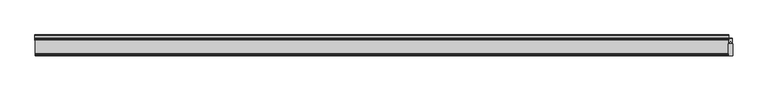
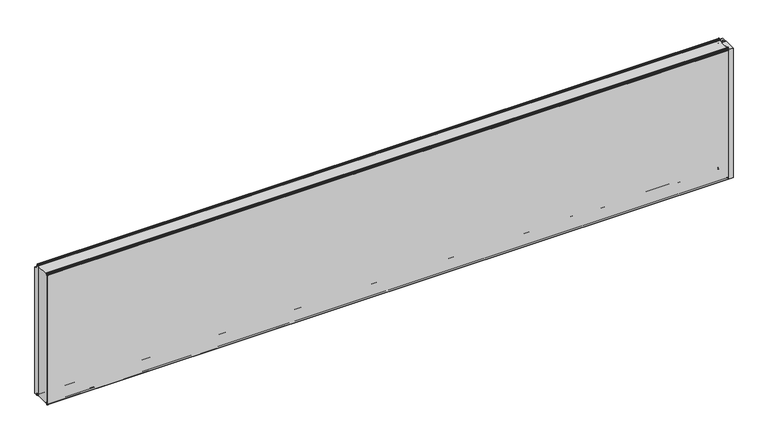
"""IFC4 building model written with IfcOpenShell, lengths in millimetres: plate geometry, Fronttop : Fronttop 150/1000."""

from ifc_helpers import new_model, si_unit, point, frame, frame_2d, origin, origin_with_axes, place, context, project, spatial, polyline, circle_curve, trimmed, segment, composite_curve, outline, extrude, source, transform, mapped, element, save
from ifc_brep_helpers import plane_surface, cylinder_surface, revolved_surface, advanced_brep


def plate_ea41461e(model_context):
    return source(origin(), model_context, "Body", "SolidModel", [
        advanced_brep(
        [(-2486.5, 124.0, 1008.0), (-2486.5, 121.0, 1008.0), (-2486.5, 121.0, 1004.0), (-2486.5, 117.0, 1000.0), (-2486.5, 115.0, 1000.0), (-2486.5, 115.0, 1001.0), (-2486.5, 117.0, 1001.0), (-2486.5, 120.0, 1004.0), (-2486.5, 120.0, 1008.0), (-2486.5, 125.0, 1008.0), (-2486.5, 125.0, 1000.0), (-2486.5, 124.0, 1000.0), (2486.5, 125.0, 1008.0), (2486.5, 120.0, 1008.0), (2486.5, 120.0, 1004.0), (2486.5, 117.0, 1001.0), (2486.5, 115.0, 1001.0), (2486.5, 115.0, 1000.0), (2486.5, 117.0, 1000.0), (2486.5, 121.0, 1004.0), (2486.5, 121.0, 1008.0), (2486.5, 124.0, 1008.0), (2486.5, 124.0, 1000.0), (2486.5, 125.0, 1000.0), (-2486.5, 117.0, 2.0), (2486.5, 117.0, 2.0), (2486.5, 115.0, 2.0), (-2486.5, 115.0, 2.0), (-2486.5, 119.0, 4.0), (2486.5, 119.0, 4.0), (-2486.5, 119.0, 8.0), (2486.5, 119.0, 8.0), (-2486.5, 126.0, 8.0), (2486.5, 126.0, 8.0), (-2486.5, 126.0, 0.0), (2486.5, 126.0, 0.0), (-2486.5, 129.0, -3.0), (2486.5, 129.0, -3.0), (-2486.5, 125.0, -3.0), (-2487.5, 125.0, -3.0), (-2487.5, 147.0, -3.0), (-2486.5, 147.0, -3.0), (2486.5, 147.0, -3.0), (2487.5, 147.0, -3.0), (2487.5, 125.0, -3.0), (2486.5, 125.0, -3.0), (-2486.5, 150.0, 0.0), (2486.5, 150.0, 0.0), (-2487.5, 150.0, 0.0), (-2487.5, 150.0, 969.0), (-2486.5, 150.0, 969.0), (2486.5, 150.0, 969.0), (2487.5, 150.0, 969.0), (2487.5, 150.0, 0.0), (-2486.5, 147.0, 972.0), (2486.5, 147.0, 972.0), (-2487.5, 147.0, 972.0), (-2487.5, 128.0, 972.0), (-2486.5, 128.0, 972.0), (2486.5, 128.0, 972.0), (2487.5, 128.0, 972.0), (2487.5, 147.0, 972.0), (-2486.5, 125.0, 975.0), (2486.5, 125.0, 975.0), (-2487.5, 125.0, 975.0), (-2487.5, 125.0, 1000.0), (2487.5, 125.0, 1000.0), (2487.5, 125.0, 975.0), (-2486.5, 124.0, 975.0), (2486.5, 124.0, 975.0), (-2486.5, 128.0, 971.0), (2486.5, 128.0, 971.0), (-2486.5, 147.0, 971.0), (2486.5, 147.0, 971.0), (-2486.5, 149.0, 969.0), (2486.5, 149.0, 969.0), (-2486.5, 149.0, 0.0), (2486.5, 149.0, 0.0), (-2486.5, 147.0, -2.0), (2486.5, 147.0, -2.0), (-2486.5, 129.0, -2.0), (2486.5, 129.0, -2.0), (-2486.5, 127.0, 0.0), (2486.5, 127.0, 0.0), (-2486.5, 127.0, 8.0), (2486.5, 127.0, 8.0), (-2486.5, 118.0, 8.0), (2486.5, 118.0, 8.0), (-2486.5, 118.0, 4.0), (2486.5, 118.0, 4.0), (-2486.5, 117.0, 3.0), (2486.5, 117.0, 3.0), (-2486.5, 115.0, 3.0), (2486.5, 115.0, 3.0), (2487.5, 110.0, 1000.0), (2487.5, 110.0, 0.0), (2487.5, 125.0, 0.0), (2486.5, 125.0, 0.0), (2486.5, 110.0, 0.0), (2486.5, 110.0, 1000.0), (-2487.5, 125.0, 0.0), (-2487.5, 110.0, 0.0), (-2487.5, 110.0, 1000.0), (-2486.5, 110.0, 1000.0), (-2486.5, 110.0, 0.0), (-2486.5, 125.0, 0.0)],
        [
            (0, 1, circle_curve(frame((-2486.5, 122.5, 1008.0), z_axis=(1.0, 0.0, 0.0), x_axis=(0.0, -1.0, 0.0)), 1.5)),
            (1, 2),
            (2, 3, circle_curve(frame((-2486.5, 117.0, 1004.0), z_axis=(-1.0, 0.0, 0.0), x_axis=(0.0, -1.0, 0.0)), 4.0)),
            (3, 4),
            (4, 5),
            (5, 6),
            (6, 7, circle_curve(frame((-2486.5, 117.0, 1004.0), z_axis=(1.0, 0.0, 0.0), x_axis=(0.0, -1.0, 0.0)), 3.0)),
            (7, 8),
            (8, 9, circle_curve(frame((-2486.5, 122.5, 1008.0), z_axis=(-1.0, 0.0, 0.0), x_axis=(0.0, -1.0, 0.0)), 2.5)),
            (9, 10),
            (10, 11),
            (11, 0),
            (12, 13, circle_curve(frame((2486.5, 122.5, 1008.0), z_axis=(1.0, 0.0, 0.0), x_axis=(0.0, -1.0, 0.0)), 2.5)),
            (13, 14),
            (14, 15, circle_curve(frame((2486.5, 117.0, 1004.0), z_axis=(-1.0, 0.0, 0.0), x_axis=(0.0, -1.0, 0.0)), 3.0)),
            (15, 16),
            (16, 17),
            (17, 18),
            (18, 19, circle_curve(frame((2486.5, 117.0, 1004.0), z_axis=(1.0, 0.0, 0.0), x_axis=(0.0, -1.0, 0.0)), 4.0)),
            (19, 20),
            (20, 21, circle_curve(frame((2486.5, 122.5, 1008.0), z_axis=(-1.0, 0.0, 0.0), x_axis=(0.0, -1.0, 0.0)), 1.5)),
            (21, 22),
            (22, 23),
            (23, 12),
            (24, 25),
            (25, 26),
            (26, 27),
            (27, 24),
            (24, 28, circle_curve(frame((-2486.5, 117.0, 4.0), z_axis=(1.0, 0.0, 0.0), x_axis=(0.0, -1.0, 0.0)), 2.0)),
            (28, 29),
            (29, 25, circle_curve(frame((2486.5, 117.0, 4.0), z_axis=(-1.0, 0.0, 0.0), x_axis=(0.0, -1.0, 0.0)), 2.0)),
            (28, 30),
            (30, 31),
            (31, 29),
            (30, 32, circle_curve(frame((-2486.5, 122.5, 8.0), z_axis=(-1.0, 0.0, 0.0), x_axis=(0.0, -1.0, 0.0)), 3.5)),
            (32, 33),
            (33, 31, circle_curve(frame((2486.5, 122.5, 8.0), z_axis=(1.0, 0.0, 0.0), x_axis=(0.0, -1.0, 0.0)), 3.5)),
            (32, 34),
            (34, 35),
            (35, 33),
            (34, 36, circle_curve(frame((-2486.5, 129.0, 0.0), z_axis=(1.0, 0.0, 0.0), x_axis=(0.0, -1.0, 0.0)), 3.0)),
            (36, 37),
            (37, 35, circle_curve(frame((2486.5, 129.0, 0.0), z_axis=(-1.0, 0.0, 0.0), x_axis=(0.0, -1.0, 0.0)), 3.0)),
            (36, 38),
            (38, 39),
            (39, 40),
            (40, 41),
            (41, 42),
            (42, 43),
            (43, 44),
            (44, 45),
            (45, 37),
            (41, 46, circle_curve(frame((-2486.5, 147.0, 0.0), z_axis=(1.0, 0.0, 0.0), x_axis=(0.0, -1.0, 0.0)), 3.0)),
            (46, 47),
            (47, 42, circle_curve(frame((2486.5, 147.0, 0.0), z_axis=(-1.0, 0.0, 0.0), x_axis=(0.0, -1.0, 0.0)), 3.0)),
            (46, 48),
            (48, 49),
            (49, 50),
            (50, 51),
            (51, 52),
            (52, 53),
            (53, 47),
            (50, 54, circle_curve(frame((-2486.5, 147.0, 969.0), z_axis=(1.0, 0.0, 0.0), x_axis=(0.0, -1.0, 0.0)), 3.0)),
            (54, 55),
            (55, 51, circle_curve(frame((2486.5, 147.0, 969.0), z_axis=(-1.0, 0.0, 0.0), x_axis=(0.0, -1.0, 0.0)), 3.0)),
            (54, 56),
            (56, 57),
            (57, 58),
            (58, 59),
            (59, 60),
            (60, 61),
            (61, 55),
            (58, 62, circle_curve(frame((-2486.5, 128.0, 975.0), z_axis=(-1.0, 0.0, 0.0), x_axis=(0.0, -1.0, 0.0)), 3.0)),
            (62, 63),
            (63, 59, circle_curve(frame((2486.5, 128.0, 975.0), z_axis=(1.0, 0.0, 0.0), x_axis=(0.0, -1.0, 0.0)), 3.0)),
            (62, 64),
            (64, 65),
            (65, 10),
            (9, 12),
            (23, 66),
            (66, 67),
            (67, 63),
            (8, 13),
            (7, 14),
            (6, 15),
            (5, 16),
            (4, 17),
            (4, 3),
            (3, 18),
            (18, 17),
            (2, 19),
            (1, 20),
            (0, 21),
            (11, 68),
            (68, 69),
            (69, 22),
            (68, 70, circle_curve(frame((-2486.5, 128.0, 975.0), z_axis=(1.0, 0.0, 0.0), x_axis=(0.0, -1.0, 0.0)), 4.0)),
            (70, 71),
            (71, 69, circle_curve(frame((2486.5, 128.0, 975.0), z_axis=(-1.0, 0.0, 0.0), x_axis=(0.0, -1.0, 0.0)), 4.0)),
            (70, 72),
            (72, 73),
            (73, 71),
            (72, 74, circle_curve(frame((-2486.5, 147.0, 969.0), z_axis=(-1.0, 0.0, 0.0), x_axis=(0.0, -1.0, 0.0)), 2.0)),
            (74, 75),
            (75, 73, circle_curve(frame((2486.5, 147.0, 969.0), z_axis=(1.0, 0.0, 0.0), x_axis=(0.0, -1.0, 0.0)), 2.0)),
            (74, 76),
            (76, 77),
            (77, 75),
            (76, 78, circle_curve(frame((-2486.5, 147.0, 0.0), z_axis=(-1.0, 0.0, 0.0), x_axis=(0.0, -1.0, 0.0)), 2.0)),
            (78, 79),
            (79, 77, circle_curve(frame((2486.5, 147.0, 0.0), z_axis=(1.0, 0.0, 0.0), x_axis=(0.0, -1.0, 0.0)), 2.0)),
            (78, 80),
            (80, 81),
            (81, 79),
            (80, 82, circle_curve(frame((-2486.5, 129.0, 0.0), z_axis=(-1.0, 0.0, 0.0), x_axis=(0.0, -1.0, 0.0)), 2.0)),
            (82, 83),
            (83, 81, circle_curve(frame((2486.5, 129.0, 0.0), z_axis=(1.0, 0.0, 0.0), x_axis=(0.0, -1.0, 0.0)), 2.0)),
            (82, 84),
            (84, 85),
            (85, 83),
            (84, 86, circle_curve(frame((-2486.5, 122.5, 8.0), z_axis=(1.0, 0.0, 0.0), x_axis=(0.0, -1.0, 0.0)), 4.5)),
            (86, 87),
            (87, 85, circle_curve(frame((2486.5, 122.5, 8.0), z_axis=(-1.0, 0.0, 0.0), x_axis=(0.0, -1.0, 0.0)), 4.5)),
            (86, 88),
            (88, 89),
            (89, 87),
            (88, 90, circle_curve(frame((-2486.5, 117.0, 4.0), z_axis=(-1.0, 0.0, 0.0), x_axis=(0.0, -1.0, 0.0)), 1.0)),
            (90, 91),
            (91, 89, circle_curve(frame((2486.5, 117.0, 4.0), z_axis=(1.0, 0.0, 0.0), x_axis=(0.0, -1.0, 0.0)), 1.0)),
            (90, 92),
            (92, 93),
            (93, 91),
            (26, 93),
            (92, 27),
            (66, 94),
            (94, 95),
            (95, 96),
            (96, 44),
            (43, 53, circle_curve(frame((2487.5, 147.0, 0.0), z_axis=(1.0, 0.0, 0.0), x_axis=(0.0, 1.0, 0.0)), 3.0)),
            (52, 61, circle_curve(frame((2487.5, 147.0, 969.0), z_axis=(1.0, 0.0, 0.0), x_axis=(0.0, 1.0, 0.0)), 3.0)),
            (60, 67, circle_curve(frame((2487.5, 128.0, 975.0), z_axis=(-1.0, 0.0, 0.0), x_axis=(0.0, 1.0, 0.0)), 3.0)),
            (45, 97),
            (97, 98),
            (98, 99),
            (99, 17),
            (18, 22),
            (99, 94),
            (98, 95),
            (97, 96),
            (64, 57, circle_curve(frame((-2487.5, 128.0, 975.0), z_axis=(1.0, 0.0, 0.0), x_axis=(0.0, 1.0, 0.0)), 3.0)),
            (56, 49, circle_curve(frame((-2487.5, 147.0, 969.0), z_axis=(-1.0, 0.0, 0.0), x_axis=(0.0, 1.0, 0.0)), 3.0)),
            (48, 40, circle_curve(frame((-2487.5, 147.0, 0.0), z_axis=(-1.0, 0.0, 0.0), x_axis=(0.0, 1.0, 0.0)), 3.0)),
            (39, 100),
            (100, 101),
            (101, 102),
            (102, 65),
            (103, 104),
            (104, 105),
            (105, 38),
            (11, 3),
            (4, 103),
            (102, 103),
            (101, 104),
            (100, 105),
        ],
        [
            plane_surface(frame((-2486.5, 0.0, 0.0), z_axis=(-1.0, 0.0, 0.0), x_axis=(0.0, 0.0, 1.0))),
            plane_surface(frame((2486.5, 0.0, 0.0), z_axis=(1.0, 0.0, 0.0), x_axis=(0.0, 0.0, 1.0))),
            plane_surface(frame((-2486.5, 117.0, 2.0), z_axis=(0.0, 0.0, -1.0), x_axis=(1.0, 0.0, 0.0))),
            cylinder_surface(frame((-2486.5, 117.0, 4.0), z_axis=(-1.0, 0.0, 0.0), x_axis=(0.0, -1.0, 0.0)), 2.0),
            plane_surface(frame((-2486.5, 119.0, 8.0), z_axis=(0.0, 1.0, 0.0), x_axis=(1.0, 0.0, 0.0))),
            revolved_surface(polyline([(2486.5, 119.0, 8.0), (-2486.5, 119.0, 8.0)]), (-2486.5, 122.5, 8.0), (1.0, 0.0, 0.0)),
            plane_surface(frame((-2486.5, 126.0, 0.0), z_axis=(0.0, -1.0, 0.0), x_axis=(1.0, 0.0, 0.0))),
            cylinder_surface(frame((-2486.5, 129.0, 0.0), z_axis=(-1.0, 0.0, 0.0), x_axis=(0.0, -1.0, 0.0)), 3.0),
            plane_surface(frame((-2486.5, 147.0, -3.0), z_axis=(0.0, 0.0, -1.0), x_axis=(1.0, 0.0, 0.0))),
            cylinder_surface(frame((-2486.5, 147.0, 0.0), z_axis=(-1.0, 0.0, 0.0), x_axis=(0.0, -1.0, 0.0)), 3.0),
            plane_surface(frame((-2486.5, 150.0, 969.0), z_axis=(0.0, 1.0, 0.0), x_axis=(1.0, 0.0, 0.0))),
            cylinder_surface(frame((-2486.5, 147.0, 969.0), z_axis=(-1.0, 0.0, 0.0), x_axis=(0.0, -1.0, 0.0)), 3.0),
            plane_surface(frame((-2486.5, 128.0, 972.0), z_axis=(0.0, 0.0, 1.0), x_axis=(1.0, 0.0, 0.0))),
            revolved_surface(polyline([(2486.5, 125.0, 975.0), (-2486.5, 125.0, 975.0)]), (-2486.5, 128.0, 975.0), (1.0, 0.0, 0.0)),
            plane_surface(frame((-2486.5, 125.0, 1008.0), z_axis=(0.0, 1.0, 0.0), x_axis=(1.0, 0.0, 0.0))),
            cylinder_surface(frame((-2486.5, 122.5, 1008.0), z_axis=(-1.0, 0.0, 0.0), x_axis=(0.0, -1.0, 0.0)), 2.5),
            plane_surface(frame((-2486.5, 120.0, 1004.0), z_axis=(0.0, -1.0, 0.0), x_axis=(1.0, 0.0, 0.0))),
            revolved_surface(polyline([(2486.5, 114.0, 1004.0), (-2486.5, 114.0, 1004.0)]), (-2486.5, 117.0, 1004.0), (1.0, 0.0, 0.0)),
            plane_surface(frame((-2486.5, 115.0, 1001.0), z_axis=(0.0, 0.0, 1.0), x_axis=(1.0, 0.0, 0.0))),
            plane_surface(frame((-2486.5, 115.0, 1000.0), z_axis=(0.0, -1.0, 0.0), x_axis=(1.0, 0.0, 0.0))),
            plane_surface(frame((-2486.5, 117.0, 1000.0), z_axis=(0.0, 0.0, -1.0), x_axis=(1.0, 0.0, 0.0))),
            cylinder_surface(frame((-2486.5, 117.0, 1004.0), z_axis=(-1.0, 0.0, 0.0), x_axis=(0.0, -1.0, 0.0)), 4.0),
            plane_surface(frame((-2486.5, 121.0, 1008.0), z_axis=(0.0, 1.0, 0.0), x_axis=(1.0, 0.0, 0.0))),
            revolved_surface(polyline([(2486.5, 121.0, 1008.0), (-2486.5, 121.0, 1008.0)]), (-2486.5, 122.5, 1008.0), (1.0, 0.0, 0.0)),
            plane_surface(frame((-2486.5, 124.0, 975.0), z_axis=(0.0, -1.0, 0.0), x_axis=(1.0, 0.0, 0.0))),
            cylinder_surface(frame((-2486.5, 128.0, 975.0), z_axis=(-1.0, 0.0, 0.0), x_axis=(0.0, -1.0, 0.0)), 4.0),
            plane_surface(frame((-2486.5, 147.0, 971.0), z_axis=(0.0, 0.0, -1.0), x_axis=(1.0, 0.0, 0.0))),
            revolved_surface(polyline([(2486.5, 145.0, 969.0), (-2486.5, 145.0, 969.0)]), (-2486.5, 147.0, 969.0), (1.0, 0.0, 0.0)),
            plane_surface(frame((-2486.5, 149.0, 0.0), z_axis=(0.0, -1.0, 0.0), x_axis=(1.0, 0.0, 0.0))),
            revolved_surface(polyline([(2486.5, 145.0, 0.0), (-2486.5, 145.0, 0.0)]), (-2486.5, 147.0, 0.0), (1.0, 0.0, 0.0)),
            plane_surface(frame((-2486.5, 129.0, -2.0), z_axis=(0.0, 0.0, 1.0), x_axis=(1.0, 0.0, 0.0))),
            revolved_surface(polyline([(2486.5, 127.0, 0.0), (-2486.5, 127.0, 0.0)]), (-2486.5, 129.0, 0.0), (1.0, 0.0, 0.0)),
            plane_surface(frame((-2486.5, 127.0, 8.0), z_axis=(0.0, 1.0, 0.0), x_axis=(1.0, 0.0, 0.0))),
            cylinder_surface(frame((-2486.5, 122.5, 8.0), z_axis=(-1.0, 0.0, 0.0), x_axis=(0.0, -1.0, 0.0)), 4.5),
            plane_surface(frame((-2486.5, 118.0, 4.0), z_axis=(0.0, -1.0, 0.0), x_axis=(1.0, 0.0, 0.0))),
            revolved_surface(polyline([(2486.5, 116.0, 4.0), (-2486.5, 116.0, 4.0)]), (-2486.5, 117.0, 4.0), (1.0, 0.0, 0.0)),
            plane_surface(frame((-2486.5, 115.0, 3.0), z_axis=(0.0, 0.0, 1.0), x_axis=(1.0, 0.0, 0.0))),
            plane_surface(frame((-2486.5, 115.0, 2.0), z_axis=(0.0, -1.0, 0.0), x_axis=(1.0, 0.0, 0.0))),
            plane_surface(frame((2487.5, 125.0, 1000.0), z_axis=(1.0, 0.0, 0.0), x_axis=(0.0, -1.0, 0.0))),
            plane_surface(frame((2486.5, 125.0, 1000.0), z_axis=(-1.0, 0.0, 0.0), x_axis=(0.0, 1.0, 0.0))),
            plane_surface(frame((2487.5, 125.0, 1000.0), z_axis=(0.0, 0.0, 1.0), x_axis=(-1.0, 0.0, 0.0))),
            plane_surface(frame((2487.5, 110.0, 1000.0), z_axis=(0.0, -1.0, 0.0), x_axis=(-1.0, 0.0, 0.0))),
            plane_surface(frame((2487.5, 110.0, 0.0), z_axis=(0.0, 0.0, -1.0), x_axis=(-1.0, 0.0, 0.0))),
            cylinder_surface(frame((2486.5, 147.0, 0.0), z_axis=(1.0, 0.0, 0.0), x_axis=(0.0, 1.0, 0.0)), 3.0),
            cylinder_surface(frame((2486.5, 147.0, 969.0), z_axis=(1.0, 0.0, 0.0), x_axis=(0.0, 1.0, 0.0)), 3.0),
            revolved_surface(polyline([(2486.5, 131.0, 975.0), (2487.5, 131.0, 975.0)]), (2486.5, 128.0, 975.0), (-1.0, 0.0, 0.0)),
            plane_surface(frame((-2487.5, 125.0, 1000.0), z_axis=(-1.0, 0.0, 0.0), x_axis=(0.0, 1.0, 0.0))),
            plane_surface(frame((-2486.5, 125.0, 1000.0), z_axis=(1.0, 0.0, 0.0), x_axis=(0.0, -1.0, 0.0))),
            plane_surface(frame((-2486.5, 125.0, 1000.0), z_axis=(0.0, 0.0, 1.0), x_axis=(-1.0, 0.0, 0.0))),
            plane_surface(frame((-2486.5, 110.0, 1000.0), z_axis=(0.0, -1.0, 0.0), x_axis=(-1.0, 0.0, 0.0))),
            plane_surface(frame((-2486.5, 110.0, 0.0), z_axis=(0.0, 0.0, -1.0), x_axis=(-1.0, 0.0, 0.0))),
            cylinder_surface(frame((-2487.5, 147.0, 0.0), z_axis=(1.0, 0.0, 0.0), x_axis=(0.0, 1.0, 0.0)), 3.0),
            cylinder_surface(frame((-2487.5, 147.0, 969.0), z_axis=(1.0, 0.0, 0.0), x_axis=(0.0, 1.0, 0.0)), 3.0),
            revolved_surface(polyline([(-2487.5, 131.0, 975.0), (-2486.5, 131.0, 975.0)]), (-2487.5, 128.0, 975.0), (-1.0, 0.0, 0.0)),
            plane_surface(frame((2487.5, 125.0, 0.0), z_axis=(0.0, -1.0, 0.0), x_axis=(-1.0, 0.0, 0.0))),
            plane_surface(frame((-2486.5, 125.0, 0.0), z_axis=(0.0, -1.0, 0.0), x_axis=(-1.0, 0.0, 0.0))),
        ],
        [
            (0, [[1, 2, 3, 4, 5, 6, 7, 8, 9, 10, 11, 12]]),
            (1, [[13, 14, 15, 16, 17, 18, 19, 20, 21, 22, 23, 24]]),
            (2, [[25, 26, 27, 28]]),
            (3, [[-25, 29, 30, 31]]),
            (4, [[-30, 32, 33, 34]]),
            (5, [[-33, 35, 36, 37]]),
            (6, [[-36, 38, 39, 40]]),
            (7, [[-39, 41, 42, 43]]),
            (8, [[-42, 44, 45, 46, 47, 48, 49, 50, 51, 52]]),
            (9, [[-48, 53, 54, 55]]),
            (10, [[-54, 56, 57, 58, 59, 60, 61, 62]]),
            (11, [[-59, 63, 64, 65]]),
            (12, [[-64, 66, 67, 68, 69, 70, 71, 72]]),
            (13, [[-69, 73, 74, 75]]),
            (14, [[-74, 76, 77, 78, -10, 79, -24, 80, 81, 82]]),
            (15, [[-9, 83, -13, -79]]),
            (16, [[-8, 84, -14, -83]]),
            (17, [[-7, 85, -15, -84]]),
            (18, [[-6, 86, -16, -85]]),
            (19, [[-5, 87, -17, -86]]),
            (20, [[-87, 88, 89, 90]]),
            (21, [[-3, 91, -19, -89]]),
            (22, [[-2, 92, -20, -91]]),
            (23, [[-1, 93, -21, -92]]),
            (24, [[-93, -12, 94, 95, 96, -22]]),
            (25, [[-95, 97, 98, 99]]),
            (26, [[-98, 100, 101, 102]]),
            (27, [[-101, 103, 104, 105]]),
            (28, [[-104, 106, 107, 108]]),
            (29, [[-107, 109, 110, 111]]),
            (30, [[-110, 112, 113, 114]]),
            (31, [[-113, 115, 116, 117]]),
            (32, [[-116, 118, 119, 120]]),
            (33, [[-119, 121, 122, 123]]),
            (34, [[-122, 124, 125, 126]]),
            (35, [[-125, 127, 128, 129]]),
            (36, [[-128, 130, 131, 132]]),
            (37, [[-27, 133, -131, 134]]),
            (38, [[135, 136, 137, 138, -50, 139, -61, 140, -71, 141, -81]]),
            (39, [[142, 143, 144, 145, -90, 146, -96, -99, -102, -105, -108, -111, -114, -117, -120, -123, -126, -129, -132, -133, -26, -31, -34, -37, -40, -43, -52]]),
            (40, [[-135, -80, -23, -146, -18, -145, 147]]),
            (41, [[-136, -147, -144, 148]]),
            (42, [[-137, -148, -143, 149]]),
            (43, [[-139, -49, -55, -62]]),
            (44, [[-140, -60, -65, -72]]),
            (45, [[-141, -70, -75, -82]]),
            (46, [[-77, 150, -67, 151, -57, 152, -46, 153, 154, 155, 156]]),
            (47, [[157, 158, 159, -44, -41, -38, -35, -32, -29, -28, -134, -130, -127, -124, -121, -118, -115, -112, -109, -106, -103, -100, -97, -94, 160, -88, 161]]),
            (48, [[-156, 162, -161, -4, -160, -11, -78]]),
            (49, [[-155, 163, -157, -162]]),
            (50, [[-154, 164, -158, -163]]),
            (51, [[-152, -56, -53, -47]]),
            (52, [[-151, -66, -63, -58]]),
            (53, [[-150, -76, -73, -68]]),
            (54, [[-138, -149, -142, -51]]),
            (55, [[-153, -45, -159, -164]]),
        ],
    ),
        extrude(outline(composite_curve([segment(polyline([(2487.4998455, 123.5), (2499.25, 123.5), (2499.25, 107.5), (2500.75, 107.5), (2500.75, 123.5), (2512.5001545, 123.5), (2512.5001545, 90.0), (2509.75, 90.0), (2509.75, 92.5)]), True, "CONTINUOUS"), segment(trimmed(circle_curve(frame_2d((2491.9661979, 89.3183984)), 18.0661619), [point((2509.75, 92.5))], [point((2500.0, 105.5))], True, "CARTESIAN"), True, "CONTINUOUS"), segment(trimmed(circle_curve(frame_2d((2508.0338021, 89.3183984)), 18.0661619), [point((2500.0, 105.5))], [point((2490.25, 92.5))], True, "CARTESIAN"), True, "CONTINUOUS"), segment(polyline([(2490.25, 92.5), (2490.25, 90.0), (2487.4998455, 90.0), (2487.4998455, 123.5)]), True, "CONTINUOUS")], self_intersect=False)), origin_with_axes(), (0.0, 0.0, 1.0), 1000.0),
        extrude(outline(polyline([(2515.5, 0.0), (2484.5, 0.0), (2484.5, 88.0), (2515.5, 88.0), (2515.5, 0.0)])), origin_with_axes(), (0.0, 0.0, 1.0), 1000.0),
        extrude(outline(polyline([(2488.4948846, 125.0), (2511.5051154, 125.0), (2511.5051154, 123.5), (2500.6502496, 123.5), (2500.6502496, 109.0759655), (2499.35, 109.0759655), (2499.35, 123.5), (2488.4948846, 123.5), (2488.4948846, 125.0)])), origin_with_axes(), (0.0, 0.0, 1.0), 1000.0),
        advanced_brep(
        [(-2484.5, 13.0, 1001.0), (-2484.5, 15.0, 1001.0), (-2484.5, 15.0, 1000.0), (-2484.5, 13.0, 1000.0), (-2484.5, 9.0, 1004.0), (-2484.5, 9.0, 1008.0), (-2484.5, 6.0, 1008.0), (-2484.5, 6.0, 999.5), (-2484.5, 2.1134897, 996.0214069), (-2484.5, 1.0, 995.0), (-2484.5, 1.0, -0.5), (-2484.5, 3.0, -0.5), (-2484.5, 3.0, 8.0), (-2484.5, 12.0, 8.0), (-2484.5, 12.0, 4.0), (-2484.5, 13.0, 3.0), (-2484.5, 15.0, 3.0), (-2484.5, 15.0, 2.0), (-2484.5, 13.0, 2.0), (-2484.5, 11.0, 4.0), (-2484.5, 11.0, 8.0), (-2484.5, 4.0, 8.0), (-2484.5, 4.0, -0.5), (-2484.5, 0.0, -0.5), (-2484.5, 0.0, 995.0), (-2484.5, 2.220863, 996.9877675), (-2484.5, 5.0, 999.5), (-2484.5, 5.0, 1008.0), (-2484.5, 10.0, 1008.0), (-2484.5, 10.0, 1004.0), (2484.5, 13.0, 1001.0), (2484.5, 10.0, 1004.0), (2484.5, 10.0, 1008.0), (2484.5, 5.0, 1008.0), (2484.5, 5.0, 999.5), (2484.5, 2.2239212, 997.0152907), (2484.5, 0.0, 995.0), (2484.5, 0.0, -0.5), (2484.5, 4.0, -0.5), (2484.5, 4.0, 8.0), (2484.5, 11.0, 8.0), (2484.5, 11.0, 4.0), (2484.5, 13.0, 2.0), (2484.5, 15.0, 2.0), (2484.5, 15.0, 3.0), (2484.5, 13.0, 3.0), (2484.5, 12.0, 4.0), (2484.5, 12.0, 8.0), (2484.5, 3.0, 8.0), (2484.5, 3.0, -0.5), (2484.5, 1.0, -0.5), (2484.5, 1.0, 995.0), (2484.5, 2.1104315, 995.9938837), (2484.5, 6.0, 999.5), (2484.5, 6.0, 1008.0), (2484.5, 9.0, 1008.0), (2484.5, 9.0, 1004.0), (2484.5, 13.0, 1000.0), (2484.5, 15.0, 1000.0), (2484.5, 15.0, 1001.0)],
        [
            (0, 1),
            (1, 2),
            (2, 3),
            (3, 4, circle_curve(frame((-2484.5, 13.0, 1004.0), z_axis=(-1.0, 0.0, 0.0), x_axis=(0.0, -1.0, 0.0)), 4.0)),
            (4, 5),
            (5, 6, circle_curve(frame((-2484.5, 7.5, 1008.0), z_axis=(1.0, 0.0, 0.0), x_axis=(0.0, -1.0, 0.0)), 1.5)),
            (6, 7),
            (7, 8, circle_curve(frame((-2484.5, 2.5, 999.5), z_axis=(-1.0, 0.0, 0.0), x_axis=(0.0, -1.0, 0.0)), 3.5)),
            (8, 9, circle_curve(frame((-2484.5, 2.0, 995.0), z_axis=(1.0, 0.0, 0.0), x_axis=(0.0, -1.0, 0.0)), 1.0)),
            (9, 10),
            (10, 11, circle_curve(frame((-2484.5, 2.0, -0.5), z_axis=(1.0, 0.0, 0.0), x_axis=(0.0, -1.0, 0.0)), 1.0)),
            (11, 12),
            (12, 13, circle_curve(frame((-2484.5, 7.5, 8.0), z_axis=(-1.0, 0.0, 0.0), x_axis=(0.0, -1.0, 0.0)), 4.5)),
            (13, 14),
            (14, 15, circle_curve(frame((-2484.5, 13.0, 4.0), z_axis=(1.0, 0.0, 0.0), x_axis=(0.0, -1.0, 0.0)), 1.0)),
            (15, 16),
            (16, 17),
            (17, 18),
            (18, 19, circle_curve(frame((-2484.5, 13.0, 4.0), z_axis=(-1.0, 0.0, 0.0), x_axis=(0.0, -1.0, 0.0)), 2.0)),
            (19, 20),
            (20, 21, circle_curve(frame((-2484.5, 7.5, 8.0), z_axis=(1.0, 0.0, 0.0), x_axis=(0.0, -1.0, 0.0)), 3.5)),
            (21, 22),
            (22, 23, circle_curve(frame((-2484.5, 2.0, -0.5), z_axis=(-1.0, 0.0, 0.0), x_axis=(0.0, -1.0, 0.0)), 2.0)),
            (23, 24),
            (24, 25, circle_curve(frame((-2484.5, 2.0, 995.0), z_axis=(-1.0, 0.0, 0.0), x_axis=(0.0, -1.0, 0.0)), 2.0)),
            (25, 26, circle_curve(frame((-2484.5, 2.5, 999.5), z_axis=(1.0, 0.0, 0.0), x_axis=(0.0, -1.0, 0.0)), 2.5)),
            (26, 27),
            (27, 28, circle_curve(frame((-2484.5, 7.5, 1008.0), z_axis=(-1.0, 0.0, 0.0), x_axis=(0.0, -1.0, 0.0)), 2.5)),
            (28, 29),
            (29, 0, circle_curve(frame((-2484.5, 13.0, 1004.0), z_axis=(1.0, 0.0, 0.0), x_axis=(0.0, -1.0, 0.0)), 3.0)),
            (30, 31, circle_curve(frame((2484.5, 13.0, 1004.0), z_axis=(-1.0, 0.0, 0.0), x_axis=(0.0, -1.0, 0.0)), 3.0)),
            (31, 32),
            (32, 33, circle_curve(frame((2484.5, 7.5, 1008.0), z_axis=(1.0, 0.0, 0.0), x_axis=(0.0, -1.0, 0.0)), 2.5)),
            (33, 34),
            (34, 35, circle_curve(frame((2484.5, 2.5, 999.5), z_axis=(-1.0, 0.0, 0.0), x_axis=(0.0, -1.0, 0.0)), 2.5)),
            (35, 36, circle_curve(frame((2484.5, 2.0, 995.0), z_axis=(1.0, 0.0, 0.0), x_axis=(0.0, -1.0, 0.0)), 2.0)),
            (36, 37),
            (37, 38, circle_curve(frame((2484.5, 2.0, -0.5), z_axis=(1.0, 0.0, 0.0), x_axis=(0.0, -1.0, 0.0)), 2.0)),
            (38, 39),
            (39, 40, circle_curve(frame((2484.5, 7.5, 8.0), z_axis=(-1.0, 0.0, 0.0), x_axis=(0.0, -1.0, 0.0)), 3.5)),
            (40, 41),
            (41, 42, circle_curve(frame((2484.5, 13.0, 4.0), z_axis=(1.0, 0.0, 0.0), x_axis=(0.0, -1.0, 0.0)), 2.0)),
            (42, 43),
            (43, 44),
            (44, 45),
            (45, 46, circle_curve(frame((2484.5, 13.0, 4.0), z_axis=(-1.0, 0.0, 0.0), x_axis=(0.0, -1.0, 0.0)), 1.0)),
            (46, 47),
            (47, 48, circle_curve(frame((2484.5, 7.5, 8.0), z_axis=(1.0, 0.0, 0.0), x_axis=(0.0, -1.0, 0.0)), 4.5)),
            (48, 49),
            (49, 50, circle_curve(frame((2484.5, 2.0, -0.5), z_axis=(-1.0, 0.0, 0.0), x_axis=(0.0, -1.0, 0.0)), 1.0)),
            (50, 51),
            (51, 52, circle_curve(frame((2484.5, 2.0, 995.0), z_axis=(-1.0, 0.0, 0.0), x_axis=(0.0, -1.0, 0.0)), 1.0)),
            (52, 53, circle_curve(frame((2484.5, 2.5, 999.5), z_axis=(1.0, 0.0, 0.0), x_axis=(0.0, -1.0, 0.0)), 3.5)),
            (53, 54),
            (54, 55, circle_curve(frame((2484.5, 7.5, 1008.0), z_axis=(-1.0, 0.0, 0.0), x_axis=(0.0, -1.0, 0.0)), 1.5)),
            (55, 56),
            (56, 57, circle_curve(frame((2484.5, 13.0, 1004.0), z_axis=(1.0, 0.0, 0.0), x_axis=(0.0, -1.0, 0.0)), 4.0)),
            (57, 58),
            (58, 59),
            (59, 30),
            (0, 30),
            (59, 1),
            (58, 2),
            (57, 3),
            (56, 4),
            (55, 5),
            (54, 6),
            (53, 7),
            (52, 8),
            (51, 9),
            (50, 10),
            (49, 11),
            (48, 12),
            (47, 13),
            (46, 14),
            (45, 15),
            (44, 16),
            (43, 17),
            (42, 18),
            (41, 19),
            (40, 20),
            (39, 21),
            (38, 22),
            (37, 23),
            (36, 24),
            (35, 25),
            (34, 26),
            (33, 27),
            (32, 28),
            (31, 29),
        ],
        [
            plane_surface(frame((-2484.5, 0.0, 0.0), z_axis=(-1.0, 0.0, 0.0), x_axis=(0.0, 0.0, 1.0))),
            plane_surface(frame((2484.5, 0.0, 0.0), z_axis=(1.0, 0.0, 0.0), x_axis=(0.0, 0.0, 1.0))),
            plane_surface(frame((-2484.5, 13.0, 1001.0), z_axis=(0.0, 0.0, 1.0), x_axis=(1.0, 0.0, 0.0))),
            plane_surface(frame((-2484.5, 15.0, 1001.0), z_axis=(0.0, 1.0, 0.0), x_axis=(1.0, 0.0, 0.0))),
            plane_surface(frame((-2484.5, 15.0, 1000.0), z_axis=(0.0, 0.0, -1.0), x_axis=(1.0, 0.0, 0.0))),
            cylinder_surface(frame((-2484.5, 13.0, 1004.0), z_axis=(-1.0, 0.0, 0.0), x_axis=(0.0, -1.0, 0.0)), 4.0),
            plane_surface(frame((-2484.5, 9.0, 1004.0), z_axis=(0.0, -1.0, 0.0), x_axis=(1.0, 0.0, 0.0))),
            revolved_surface(polyline([(2484.5, 6.0, 1008.0), (-2484.5, 6.0, 1008.0)]), (-2484.5, 7.5, 1008.0), (1.0, 0.0, 0.0)),
            plane_surface(frame((-2484.5, 6.0, 1008.0), z_axis=(0.0, 1.0, 0.0), x_axis=(1.0, 0.0, 0.0))),
            cylinder_surface(frame((-2484.5, 2.5, 999.5), z_axis=(-1.0, 0.0, 0.0), x_axis=(0.0, -1.0, 0.0)), 3.5),
            revolved_surface(polyline([(2484.5, 1.0, 995.0), (-2484.5, 1.0, 995.0)]), (-2484.5, 2.0, 995.0), (1.0, 0.0, 0.0)),
            plane_surface(frame((-2484.5, 1.0, 995.0), z_axis=(0.0, 1.0, 0.0), x_axis=(1.0, 0.0, 0.0))),
            revolved_surface(polyline([(2484.5, 1.0, -0.5), (-2484.5, 1.0, -0.5)]), (-2484.5, 2.0, -0.5), (1.0, 0.0, 0.0)),
            plane_surface(frame((-2484.5, 3.0, -0.5), z_axis=(0.0, -1.0, 0.0), x_axis=(1.0, 0.0, 0.0))),
            cylinder_surface(frame((-2484.5, 7.5, 8.0), z_axis=(-1.0, 0.0, 0.0), x_axis=(0.0, -1.0, 0.0)), 4.5),
            plane_surface(frame((-2484.5, 12.0, 8.0), z_axis=(0.0, 1.0, 0.0), x_axis=(1.0, 0.0, 0.0))),
            revolved_surface(polyline([(2484.5, 12.0, 4.0), (-2484.5, 12.0, 4.0)]), (-2484.5, 13.0, 4.0), (1.0, 0.0, 0.0)),
            plane_surface(frame((-2484.5, 13.0, 3.0), z_axis=(0.0, 0.0, 1.0), x_axis=(1.0, 0.0, 0.0))),
            plane_surface(frame((-2484.5, 15.0, 3.0), z_axis=(0.0, 1.0, 0.0), x_axis=(1.0, 0.0, 0.0))),
            plane_surface(frame((-2484.5, 15.0, 2.0), z_axis=(0.0, 0.0, -1.0), x_axis=(1.0, 0.0, 0.0))),
            cylinder_surface(frame((-2484.5, 13.0, 4.0), z_axis=(-1.0, 0.0, 0.0), x_axis=(0.0, -1.0, 0.0)), 2.0),
            plane_surface(frame((-2484.5, 11.0, 4.0), z_axis=(0.0, -1.0, 0.0), x_axis=(1.0, 0.0, 0.0))),
            revolved_surface(polyline([(2484.5, 4.0, 8.0), (-2484.5, 4.0, 8.0)]), (-2484.5, 7.5, 8.0), (1.0, 0.0, 0.0)),
            plane_surface(frame((-2484.5, 4.0, 8.0), z_axis=(0.0, 1.0, 0.0), x_axis=(1.0, 0.0, 0.0))),
            cylinder_surface(frame((-2484.5, 2.0, -0.5), z_axis=(-1.0, 0.0, 0.0), x_axis=(0.0, -1.0, 0.0)), 2.0),
            plane_surface(frame((-2484.5, 0.0, -0.5), z_axis=(0.0, -1.0, 0.0), x_axis=(1.0, 0.0, 0.0))),
            cylinder_surface(frame((-2484.5, 2.0, 995.0), z_axis=(-1.0, 0.0, 0.0), x_axis=(0.0, -1.0, 0.0)), 2.0),
            revolved_surface(polyline([(2484.5, 0.0, 999.5), (-2484.5, 0.0, 999.5)]), (-2484.5, 2.5, 999.5), (1.0, 0.0, 0.0)),
            plane_surface(frame((-2484.5, 5.0, 999.5), z_axis=(0.0, -1.0, 0.0), x_axis=(1.0, 0.0, 0.0))),
            cylinder_surface(frame((-2484.5, 7.5, 1008.0), z_axis=(-1.0, 0.0, 0.0), x_axis=(0.0, -1.0, 0.0)), 2.5),
            plane_surface(frame((-2484.5, 10.0, 1008.0), z_axis=(0.0, 1.0, 0.0), x_axis=(1.0, 0.0, 0.0))),
            revolved_surface(polyline([(2484.5, 10.0, 1004.0), (-2484.5, 10.0, 1004.0)]), (-2484.5, 13.0, 1004.0), (1.0, 0.0, 0.0)),
        ],
        [
            (0, [[1, 2, 3, 4, 5, 6, 7, 8, 9, 10, 11, 12, 13, 14, 15, 16, 17, 18, 19, 20, 21, 22, 23, 24, 25, 26, 27, 28, 29, 30]]),
            (1, [[31, 32, 33, 34, 35, 36, 37, 38, 39, 40, 41, 42, 43, 44, 45, 46, 47, 48, 49, 50, 51, 52, 53, 54, 55, 56, 57, 58, 59, 60]]),
            (2, [[-1, 61, -60, 62]]),
            (3, [[-2, -62, -59, 63]]),
            (4, [[-3, -63, -58, 64]]),
            (5, [[-4, -64, -57, 65]]),
            (6, [[-5, -65, -56, 66]]),
            (7, [[-6, -66, -55, 67]]),
            (8, [[-7, -67, -54, 68]]),
            (9, [[-8, -68, -53, 69]]),
            (10, [[-9, -69, -52, 70]]),
            (11, [[-10, -70, -51, 71]]),
            (12, [[-11, -71, -50, 72]]),
            (13, [[-12, -72, -49, 73]]),
            (14, [[-13, -73, -48, 74]]),
            (15, [[-14, -74, -47, 75]]),
            (16, [[-15, -75, -46, 76]]),
            (17, [[-16, -76, -45, 77]]),
            (18, [[-17, -77, -44, 78]]),
            (19, [[-18, -78, -43, 79]]),
            (20, [[-19, -79, -42, 80]]),
            (21, [[-20, -80, -41, 81]]),
            (22, [[-21, -81, -40, 82]]),
            (23, [[-22, -82, -39, 83]]),
            (24, [[-23, -83, -38, 84]]),
            (25, [[-24, -84, -37, 85]]),
            (26, [[-25, -85, -36, 86]]),
            (27, [[-26, -86, -35, 87]]),
            (28, [[-27, -87, -34, 88]]),
            (29, [[-28, -88, -33, 89]]),
            (30, [[-29, -89, -32, 90]]),
            (31, [[-30, -90, -31, -61]]),
        ],
    ),
        extrude(outline(composite_curve([segment(polyline([(15.0, 3.0), (13.0, 3.0)]), True, "CONTINUOUS"), segment(trimmed(circle_curve(frame_2d((13.0, 4.0)), 1.0), [point((13.0, 3.0))], [point((12.0, 4.0))], False, "CARTESIAN"), True, "CONTINUOUS"), segment(polyline([(12.0, 4.0), (12.0, 8.0)]), True, "CONTINUOUS"), segment(trimmed(circle_curve(frame_2d((7.5, 8.0)), 4.5), [point((12.0, 8.0))], [point((3.0, 8.0))], True, "CARTESIAN"), True, "CONTINUOUS"), segment(polyline([(3.0, 8.0), (3.0, -0.5)]), True, "CONTINUOUS"), segment(trimmed(circle_curve(frame_2d((2.0, -0.5)), 1.0), [point((3.0, -0.5))], [point((1.0, -0.5))], False, "CARTESIAN"), True, "CONTINUOUS"), segment(polyline([(1.0, -0.5), (1.0, 995.0278643)]), True, "CONTINUOUS"), segment(trimmed(circle_curve(frame_2d((2.0, 995.0278643)), 1.0), [point((1.0, 995.0278643))], [point((2.1111111, 996.0216723))], False, "CARTESIAN"), True, "CONTINUOUS"), segment(trimmed(circle_curve(frame_2d((2.5, 999.5)), 3.5), [point((2.1111111, 996.0216723))], [point((6.0, 999.5))], True, "CARTESIAN"), True, "CONTINUOUS"), segment(polyline([(6.0, 999.5), (6.0, 1008.0)]), True, "CONTINUOUS"), segment(trimmed(circle_curve(frame_2d((7.5, 1008.0)), 1.5), [point((6.0, 1008.0))], [point((9.0, 1008.0))], False, "CARTESIAN"), True, "CONTINUOUS"), segment(polyline([(9.0, 1008.0), (9.0, 1004.0)]), True, "CONTINUOUS"), segment(trimmed(circle_curve(frame_2d((13.0, 1004.0)), 4.0), [point((9.0, 1004.0))], [point((13.0, 1000.0))], True, "CARTESIAN"), True, "CONTINUOUS"), segment(polyline([(13.0, 1000.0), (117.0, 1000.0)]), True, "CONTINUOUS"), segment(trimmed(circle_curve(frame_2d((117.0, 1004.0)), 4.0), [point((117.0, 1000.0))], [point((121.0, 1004.0))], True, "CARTESIAN"), True, "CONTINUOUS"), segment(polyline([(121.0, 1004.0), (121.0, 1008.0)]), True, "CONTINUOUS"), segment(trimmed(circle_curve(frame_2d((122.5, 1008.0)), 1.5), [point((121.0, 1008.0))], [point((124.0, 1008.0))], False, "CARTESIAN"), True, "CONTINUOUS"), segment(polyline([(124.0, 1008.0), (124.0, 975.0)]), True, "CONTINUOUS"), segment(trimmed(circle_curve(frame_2d((128.0, 975.0)), 4.0), [point((124.0, 975.0))], [point((128.0, 971.0))], True, "CARTESIAN"), True, "CONTINUOUS"), segment(polyline([(128.0, 971.0), (147.0, 971.0)]), True, "CONTINUOUS"), segment(trimmed(circle_curve(frame_2d((147.0, 969.0)), 2.0), [point((147.0, 971.0))], [point((149.0, 969.0))], False, "CARTESIAN"), True, "CONTINUOUS"), segment(polyline([(149.0, 969.0), (149.0, 0.0)]), True, "CONTINUOUS"), segment(trimmed(circle_curve(frame_2d((147.0, 0.0)), 2.0), [point((149.0, 0.0))], [point((147.0, -2.0))], False, "CARTESIAN"), True, "CONTINUOUS"), segment(polyline([(147.0, -2.0), (129.0, -2.0)]), True, "CONTINUOUS"), segment(trimmed(circle_curve(frame_2d((129.0, 0.0)), 2.0), [point((129.0, -2.0))], [point((127.0, 0.0))], False, "CARTESIAN"), True, "CONTINUOUS"), segment(polyline([(127.0, 0.0), (127.0, 8.0)]), True, "CONTINUOUS"), segment(trimmed(circle_curve(frame_2d((122.5, 8.0)), 4.5), [point((127.0, 8.0))], [point((118.0, 8.0))], True, "CARTESIAN"), True, "CONTINUOUS"), segment(polyline([(118.0, 8.0), (118.0, 4.0)]), True, "CONTINUOUS"), segment(trimmed(circle_curve(frame_2d((117.0, 4.0)), 1.0), [point((118.0, 4.0))], [point((117.0, 3.0))], False, "CARTESIAN"), True, "CONTINUOUS"), segment(polyline([(117.0, 3.0), (115.0, 3.0), (115.0, 0.0), (15.0, 0.0), (15.0, 3.0)]), True, "CONTINUOUS")], self_intersect=False)), frame((-2484.5, 0.0, 0.0), z_axis=(1.0, 0.0, 0.0), x_axis=(0.0, 1.0, 0.0)), (0.0, 0.0, 1.0), 4969.0),
    ])


if __name__ == "__main__":
    model = new_model("IFC4")
    model_context = context("Model", 3, world=origin())
    ifc_project = project(units=[si_unit("LENGTHUNIT", "METRE", prefix="MILLI")], contexts=[model_context])
    site = spatial("IfcSite", under=ifc_project)
    building = spatial("IfcBuilding", under=site)
    placement = place(None, origin())
    plate_shape = plate_ea41461e(model_context)
    element("IfcPlate", 1, ObjectType="Fronttop : Fronttop 150/1000", at=placement, inside=building, context=model_context, shape_type="MappedRepresentation", body=[
        mapped(plate_shape, transform((0.0, 0.0, 0.0), x_axis=(1.0, 0.0, 0.0), y_axis=(0.0, 1.0, 0.0), z_axis=(0.0, 0.0, 1.0))),
    ])
    save(model, "model.ifc")
